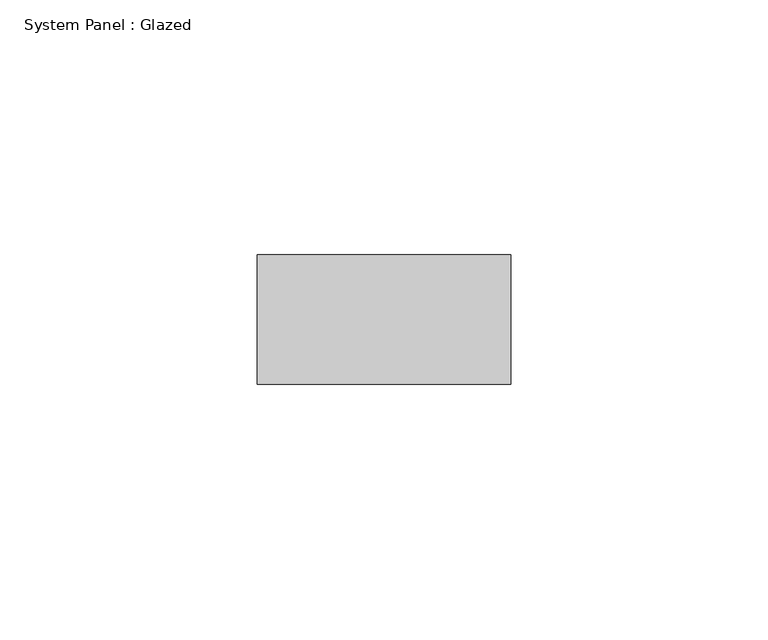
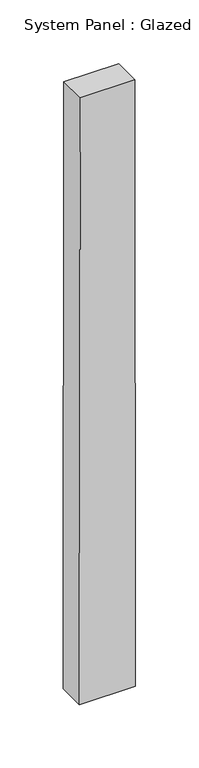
"""IFC4 building model written with IfcOpenShell, lengths in millimetres: plate geometry, System Panel : Glazed."""

from ifc_helpers import new_model, si_unit, frame, origin, place, context, project, spatial, polyline, outline, extrude, source, transform, mapped, element, save


def system_panel_glazed_9e14ac5f(model_context):
    return source(origin(), model_context, "Body", "SweptSolid", [
        extrude(outline(polyline([(0.0, -25.3591835), (0.0, 25.3591835), (584.1997531, 24.8334148), (584.1997531, -24.8334148), (0.0, -25.3591835)])), frame((0.0, 19.05, 0.0), z_axis=(0.0, 1.0, 0.0), x_axis=(0.0, 0.0, 1.0)), (0.0, 0.0, 1.0), 25.4),
    ])


if __name__ == "__main__":
    model = new_model("IFC4")
    model_context = context("Model", 3, world=origin())
    ifc_project = project(units=[si_unit("LENGTHUNIT", "METRE", prefix="MILLI")], contexts=[model_context])
    site = spatial("IfcSite", under=ifc_project)
    building = spatial("IfcBuilding", under=site)
    placement = place(None, origin())
    system_panel_glazed_shape = system_panel_glazed_9e14ac5f(model_context)
    element("IfcPlate", 1, ObjectType="System Panel : Glazed", at=placement, inside=building, context=model_context, shape_type="MappedRepresentation", body=[
        mapped(system_panel_glazed_shape, transform((0.0, 0.0, 0.0), x_axis=(1.0, 0.0, 0.0), y_axis=(0.0, 1.0, 0.0), z_axis=(0.0, 0.0, 1.0))),
    ])
    save(model, "model.ifc")
